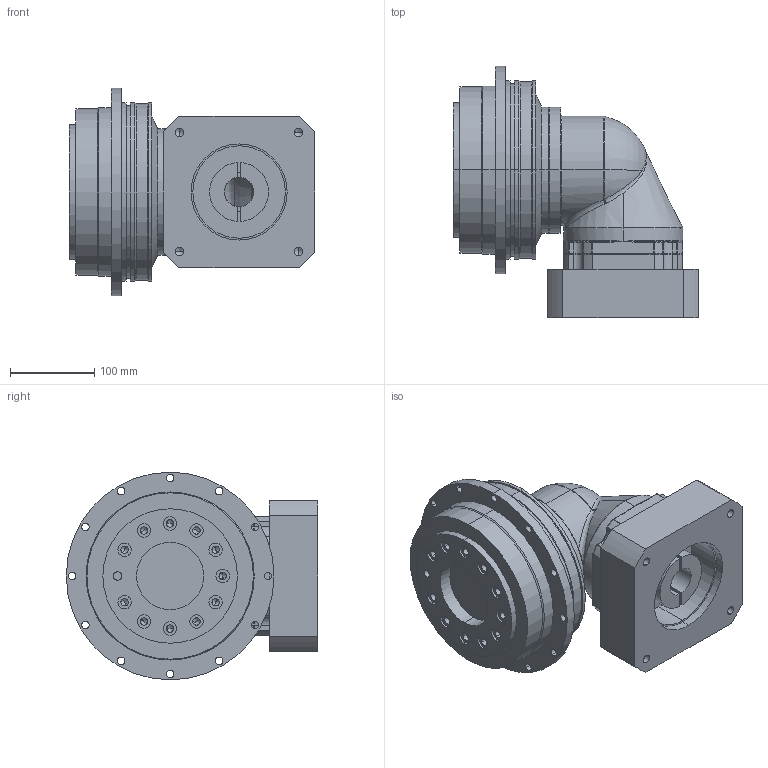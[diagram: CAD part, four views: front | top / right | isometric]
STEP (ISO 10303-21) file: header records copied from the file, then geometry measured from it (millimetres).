
FILE_DESCRIPTION (( 'STEP AP203' ), '1' );
FILE_NAME ('WADR200-L1(3KW)俋倛芞(35-81-114.3-200-M12).STEP', '2020-10-19T02:45:26', ( '' ), ( '' ), 'SwSTEP 2.0', 'SolidWorks 2016', '' );
FILE_SCHEMA (( 'CONFIG_CONTROL_DESIGN' ));
Length unit declared in the file: millimetre
Products named in the file (1): WADR200-L1(3KW)俋倛芞(35-81-114.3-200-M12)
Bounding box: 292 x 299 x 247 mm (x, y, z)
Volume: 5978888.9 mm3; surface area: 574607 mm2
Topology: 4 solids, 4 shells, 517 faces, 1240 edges, 696 vertices
Faces by surface type: cylinder 234, plane 90, torus 57, bspline 54, cone 50, sphere 32
Entity records: 16667 total; most frequent: CARTESIAN_POINT 4916, DIRECTION 2628, ORIENTED_EDGE 2314, EDGE_CURVE 1157, AXIS2_PLACEMENT_3D 1118, VERTEX_POINT 696, CIRCLE 654, EDGE_LOOP 611
